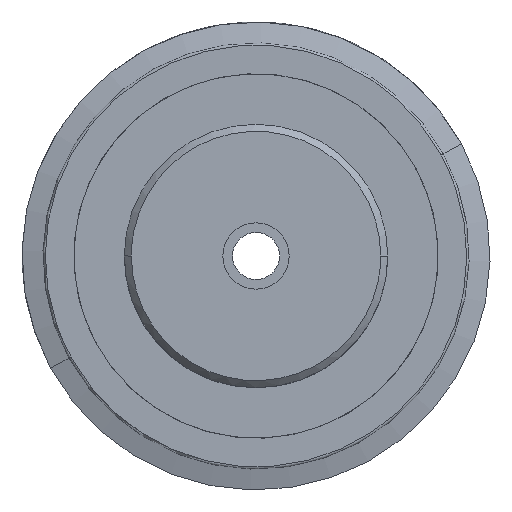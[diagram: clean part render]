
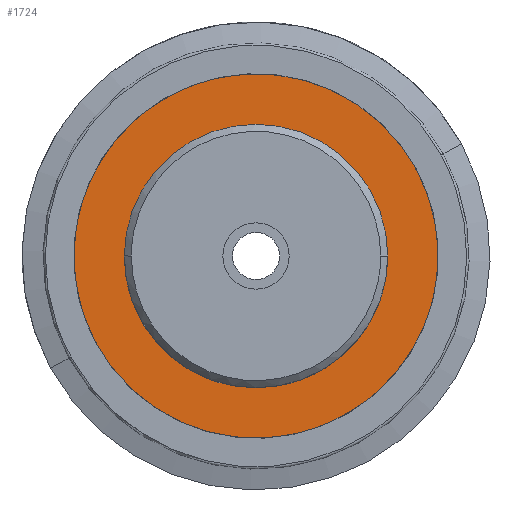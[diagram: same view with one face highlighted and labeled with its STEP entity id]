
A CAD part, front view. The second image highlights one B-rep face of the part: STEP entity #1724.
In plain terms, the highlighted planar face has unit normal (0, -1, 0).
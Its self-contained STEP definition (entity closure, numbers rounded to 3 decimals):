
#1634=CARTESIAN_POINT('Vertex',(-56.,-14.,0.)) ;
#1641=CARTESIAN_POINT('Vertex',(56.,-14.,0.)) ;
#1644=CARTESIAN_POINT('Axis2P3D Location',(0.,-14.,0.)) ;
#1656=CARTESIAN_POINT('Axis2P3D Location',(25.,-14.,0.)) ;
#1662=CARTESIAN_POINT('Control Point',(77.5,-14.,0.)) ;
#1663=CARTESIAN_POINT('Control Point',(77.5,-14.,12.174)) ;
#1664=CARTESIAN_POINT('Control Point',(75.11,-14.,24.347)) ;
#1665=CARTESIAN_POINT('Control Point',(70.327,-14.,35.894)) ;
#1666=CARTESIAN_POINT('Control Point',(56.491,-14.,56.491)) ;
#1667=CARTESIAN_POINT('Control Point',(35.894,-14.,70.327)) ;
#1668=CARTESIAN_POINT('Control Point',(24.347,-14.,75.11)) ;
#1669=CARTESIAN_POINT('Control Point',(0.,-14.,79.89)) ;
#1670=CARTESIAN_POINT('Control Point',(-24.347,-14.,75.11)) ;
#1671=CARTESIAN_POINT('Control Point',(-35.894,-14.,70.327)) ;
#1672=CARTESIAN_POINT('Control Point',(-56.491,-14.,56.491)) ;
#1673=CARTESIAN_POINT('Control Point',(-70.327,-14.,35.894)) ;
#1674=CARTESIAN_POINT('Control Point',(-75.11,-14.,24.347)) ;
#1675=CARTESIAN_POINT('Control Point',(-77.5,-14.,12.174)) ;
#1676=CARTESIAN_POINT('Control Point',(-77.5,-14.,0.)) ;
#1677=CARTESIAN_POINT('Vertex',(-77.5,-14.,0.)) ;
#1679=CARTESIAN_POINT('Vertex',(77.5,-14.,0.)) ;
#1683=CARTESIAN_POINT('Control Point',(-77.5,-14.,0.)) ;
#1684=CARTESIAN_POINT('Control Point',(-77.5,-14.,-12.174)) ;
#1685=CARTESIAN_POINT('Control Point',(-75.11,-14.,-24.347)) ;
#1686=CARTESIAN_POINT('Control Point',(-70.327,-14.,-35.894)) ;
#1687=CARTESIAN_POINT('Control Point',(-56.491,-14.,-56.491)) ;
#1688=CARTESIAN_POINT('Control Point',(-35.894,-14.,-70.327)) ;
#1689=CARTESIAN_POINT('Control Point',(-24.347,-14.,-75.11)) ;
#1690=CARTESIAN_POINT('Control Point',(0.,-14.,-79.89)) ;
#1691=CARTESIAN_POINT('Control Point',(24.347,-14.,-75.11)) ;
#1692=CARTESIAN_POINT('Control Point',(35.894,-14.,-70.327)) ;
#1693=CARTESIAN_POINT('Control Point',(56.491,-14.,-56.491)) ;
#1694=CARTESIAN_POINT('Control Point',(70.327,-14.,-35.894)) ;
#1695=CARTESIAN_POINT('Control Point',(75.11,-14.,-24.347)) ;
#1696=CARTESIAN_POINT('Control Point',(77.5,-14.,-12.174)) ;
#1697=CARTESIAN_POINT('Control Point',(77.5,-14.,0.)) ;
#1704=CARTESIAN_POINT('Control Point',(-56.,-14.,0.)) ;
#1705=CARTESIAN_POINT('Control Point',(-56.,-14.,-8.796)) ;
#1706=CARTESIAN_POINT('Control Point',(-54.273,-14.,-17.593)) ;
#1707=CARTESIAN_POINT('Control Point',(-50.817,-14.,-25.937)) ;
#1708=CARTESIAN_POINT('Control Point',(-40.819,-14.,-40.819)) ;
#1709=CARTESIAN_POINT('Control Point',(-25.937,-14.,-50.817)) ;
#1710=CARTESIAN_POINT('Control Point',(-17.593,-14.,-54.273)) ;
#1711=CARTESIAN_POINT('Control Point',(0.,-14.,-57.727)) ;
#1712=CARTESIAN_POINT('Control Point',(17.593,-14.,-54.273)) ;
#1713=CARTESIAN_POINT('Control Point',(25.937,-14.,-50.817)) ;
#1714=CARTESIAN_POINT('Control Point',(40.819,-14.,-40.819)) ;
#1715=CARTESIAN_POINT('Control Point',(50.817,-14.,-25.937)) ;
#1716=CARTESIAN_POINT('Control Point',(54.273,-14.,-17.593)) ;
#1717=CARTESIAN_POINT('Control Point',(56.,-14.,-8.796)) ;
#1718=CARTESIAN_POINT('Control Point',(56.,-14.,0.)) ;
#1645=DIRECTION('Axis2P3D Direction',(0.,-1.,0.)) ;
#1657=DIRECTION('Axis2P3D Direction',(0.,-1.,0.)) ;
#1658=DIRECTION('Axis2P3D XDirection',(1.,0.,0.)) ;
#1646=AXIS2_PLACEMENT_3D('Circle Axis2P3D',#1644,#1645,$) ;
#1659=AXIS2_PLACEMENT_3D('Plane Axis2P3D',#1656,#1657,#1658) ;
#1700=ORIENTED_EDGE('',*,*,#1681,.F.) ;
#1701=ORIENTED_EDGE('',*,*,#1698,.F.) ;
#1721=ORIENTED_EDGE('',*,*,#1648,.T.) ;
#1722=ORIENTED_EDGE('',*,*,#1719,.T.) ;
#1723=FACE_BOUND('',#1720,.T.) ;
#1724=ADVANCED_FACE('\X2\96F64EF651E04F554F53\X0\',(#1702,#1723),#1660,.T.) ;
#1661=B_SPLINE_CURVE_WITH_KNOTS('',5,(#1662,#1663,#1664,#1665,#1666,#1667,#1668,#1669,#1670,#1671,#1672,#1673,#1674,#1675,#1676),.UNSPECIFIED.,.F.,.U.,(6,3,3,3,6),(0.,60.868,121.737,182.605,243.473),.UNSPECIFIED.) ;
#1682=B_SPLINE_CURVE_WITH_KNOTS('',5,(#1683,#1684,#1685,#1686,#1687,#1688,#1689,#1690,#1691,#1692,#1693,#1694,#1695,#1696,#1697),.UNSPECIFIED.,.F.,.U.,(6,3,3,3,6),(243.473,304.342,365.21,426.079,486.947),.UNSPECIFIED.) ;
#1703=B_SPLINE_CURVE_WITH_KNOTS('',5,(#1704,#1705,#1706,#1707,#1708,#1709,#1710,#1711,#1712,#1713,#1714,#1715,#1716,#1717,#1718),.UNSPECIFIED.,.F.,.U.,(6,3,3,3,6),(175.929,219.911,263.894,307.876,351.858),.UNSPECIFIED.) ;
#1647=CIRCLE('generated circle',#1646,56.) ;
#1648=EDGE_CURVE('',#1635,#1642,#1647,.F.) ;
#1681=EDGE_CURVE('',#1678,#1680,#1661,.F.) ;
#1698=EDGE_CURVE('',#1680,#1678,#1682,.F.) ;
#1719=EDGE_CURVE('',#1642,#1635,#1703,.F.) ;
#1699=EDGE_LOOP('',(#1700,#1701)) ;
#1720=EDGE_LOOP('',(#1721,#1722)) ;
#1702=FACE_OUTER_BOUND('',#1699,.T.) ;
#1660=PLANE('',#1659) ;
#1635=VERTEX_POINT('',#1634) ;
#1642=VERTEX_POINT('',#1641) ;
#1678=VERTEX_POINT('',#1677) ;
#1680=VERTEX_POINT('',#1679) ;
